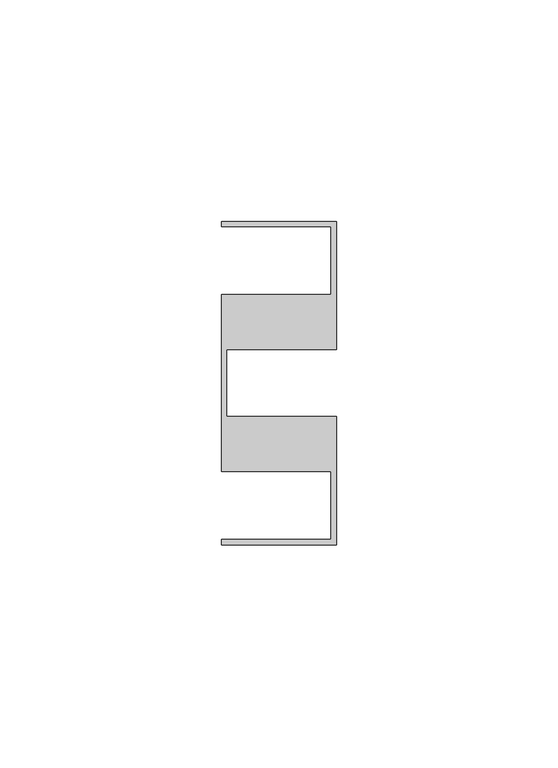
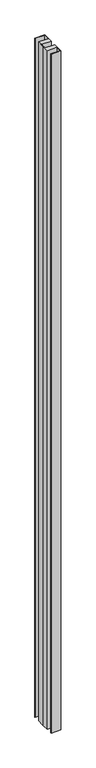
"""IFC4 building model written with IfcOpenShell, lengths in millimetres: member geometry, Прямоугольный импост : 10-AMG-2-Профиль 26Х73 Верх П."""

from ifc_helpers import new_model, si_unit, frame, origin, place, context, project, spatial, polyline, outline, extrude, source, transform, mapped, element, save


def member_eacce06f(model_context):
    return source(origin(), model_context, "Body", "SweptSolid", [
        extrude(outline(polyline([(-26.0, 36.5), (0.0, 36.5), (0.0, 7.5116043), (-24.8, 7.5116043), (-24.8, 0.0), (-24.8, -7.5116043), (0.0, -7.5116043), (0.0, -36.5), (-26.0, -36.5), (-26.0, -35.3116043), (-1.2, -35.3116043), (-1.2, -20.0), (-26.0, -20.0), (-26.0, 0.0), (-26.0, 20.0), (-1.2, 20.0), (-1.2, 35.3), (-26.0, 35.3), (-26.0, 36.5)])), frame((0.0, 0.0, -1878.1748553), z_axis=(0.0, 0.0, 1.0), x_axis=(1.0, 0.0, 0.0)), (0.0, 0.0, 1.0), 1878.1748553),
    ])


if __name__ == "__main__":
    model = new_model("IFC4")
    model_context = context("Model", 3, world=origin())
    ifc_project = project(units=[si_unit("LENGTHUNIT", "METRE", prefix="MILLI")], contexts=[model_context])
    site = spatial("IfcSite", under=ifc_project)
    building = spatial("IfcBuilding", under=site)
    placement = place(None, origin())
    member_shape = member_eacce06f(model_context)
    element("IfcMember", 1, ObjectType="Прямоугольный импост : 10-AMG-2-Профиль 26Х73 Верх П", at=placement, inside=building, context=model_context, shape_type="MappedRepresentation", body=[
        mapped(member_shape, transform((0.0, 0.0, 0.0), x_axis=(1.0, 0.0, 0.0), y_axis=(0.0, 1.0, 0.0), z_axis=(0.0, 0.0, 1.0))),
    ])
    save(model, "model.ifc")
